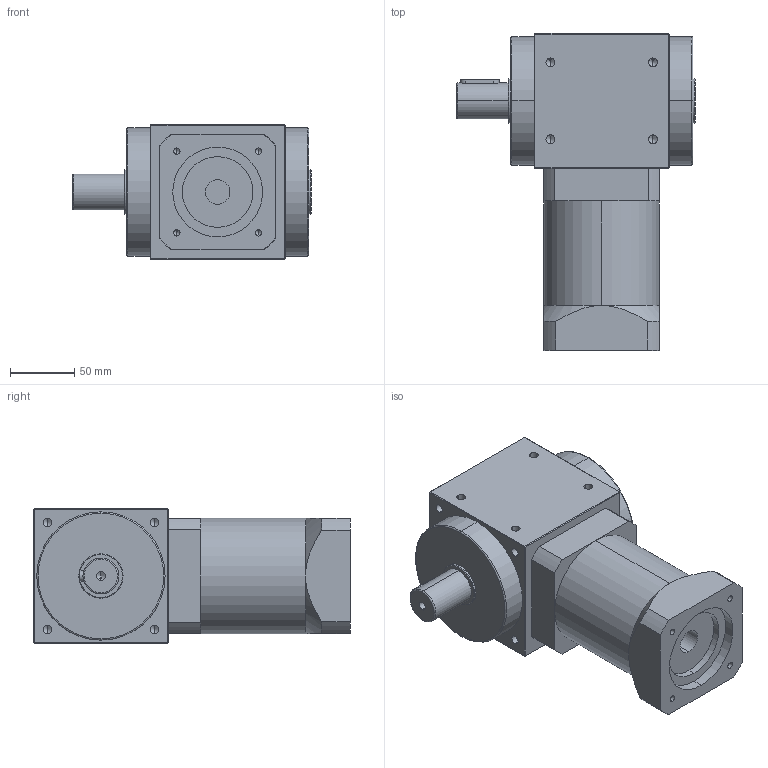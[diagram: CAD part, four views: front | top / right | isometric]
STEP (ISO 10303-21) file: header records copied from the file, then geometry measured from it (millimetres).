
FILE_DESCRIPTION (( 'STEP AP214' ), '1' );
FILE_NAME ('PAW105A-L2-P(12-100) 19-70-90-M6.STEP', '2020-12-05T09:30:48', ( '微软用户' ), ( '微软中国' ), 'SwSTEP 2.0', 'SolidWorks 2014', '' );
FILE_SCHEMA (( 'AUTOMOTIVE_DESIGN' ));
Length unit declared in the file: millimetre
Products named in the file (2): PAW105A-L2-P(12-100) 19-70-90-M6
Bounding box: 186 x 247 x 105 mm (x, y, z)
Volume: 2393993 mm3; surface area: 157510.3 mm2
Topology: 2 solids, 2 shells, 200 faces, 474 edges, 255 vertices
Faces by surface type: cylinder 80, cone 60, plane 54, torus 6
Entity records: 7788 total; most frequent: CARTESIAN_POINT 1131, DIRECTION 982, ORIENTED_EDGE 848, EDGE_CURVE 424, AXIS2_PLACEMENT_3D 382, VERTEX_POINT 255, EDGE_LOOP 235, LINE 218
